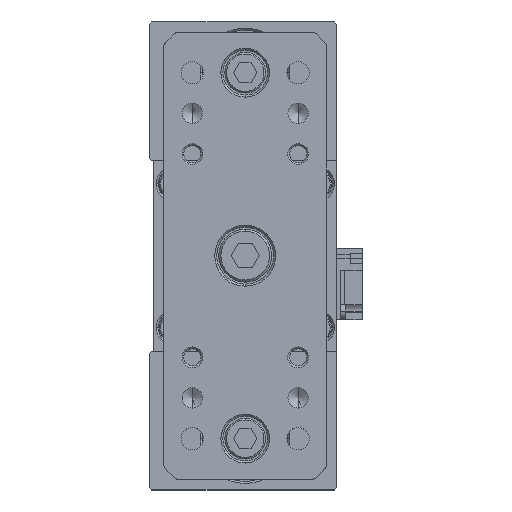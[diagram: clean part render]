
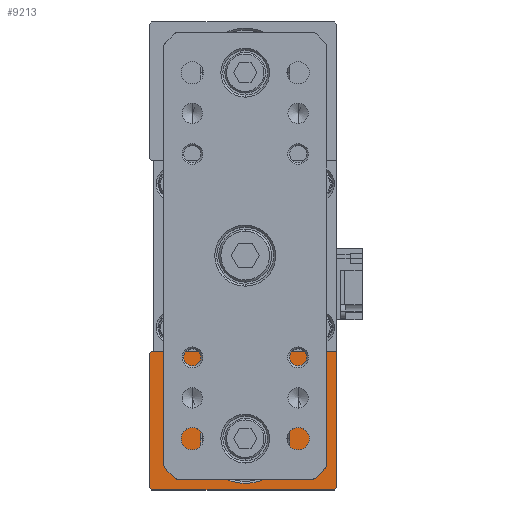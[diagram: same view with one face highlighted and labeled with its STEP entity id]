
A CAD part, top view. The second image highlights one B-rep face of the part: STEP entity #9213.
In plain terms, the highlighted planar face has unit normal (0, 0, 1).
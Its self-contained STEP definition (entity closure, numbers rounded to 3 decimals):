
#525 = CARTESIAN_POINT ( 'NONE',  ( -23.5, -24., 361. ) ) ;
#1566 = PLANE ( 'NONE',  #17268 ) ;
#2292 = DIRECTION ( 'NONE',  ( 0., 0., -1. ) ) ;
#2540 = VERTEX_POINT ( 'NONE', #13315 ) ;
#2937 = CARTESIAN_POINT ( 'NONE',  ( 22.5, -23.5, 361. ) ) ;
#3142 = EDGE_LOOP ( 'NONE', ( #23534, #22667, #7123, #4132, #21081, #16589, #28722 ) ) ;
#4132 = ORIENTED_EDGE ( 'NONE', *, *, #20104, .T. ) ;
#4609 = DIRECTION ( 'NONE',  ( -1., 0., 0. ) ) ;
#4968 = ORIENTED_EDGE ( 'NONE', *, *, #18100, .T. ) ;
#5765 = CARTESIAN_POINT ( 'NONE',  ( -23.5, -57.5, 361. ) ) ;
#6153 = EDGE_CURVE ( 'NONE', #9783, #8974, #27178, .T. ) ;
#6401 = CARTESIAN_POINT ( 'NONE',  ( 22.5, -57.5, 361. ) ) ;
#6509 = DIRECTION ( 'NONE',  ( 0., 0., -1. ) ) ;
#6655 = VERTEX_POINT ( 'NONE', #9307 ) ;
#7021 = LINE ( 'NONE', #30838, #13617 ) ;
#7123 = ORIENTED_EDGE ( 'NONE', *, *, #19431, .F. ) ;
#7127 = AXIS2_PLACEMENT_3D ( 'NONE', #17067, #2292, #19567 ) ;
#7137 = VERTEX_POINT ( 'NONE', #23794 ) ;
#7800 = LINE ( 'NONE', #5765, #13610 ) ;
#8463 = VERTEX_POINT ( 'NONE', #2937 ) ;
#8974 = VERTEX_POINT ( 'NONE', #27721 ) ;
#9213 = ADVANCED_FACE ( 'NONE', ( #24314, #25099 ), #1566, .F. ) ;
#9307 = CARTESIAN_POINT ( 'NONE',  ( -23., -57.5, 361. ) ) ;
#9569 = CARTESIAN_POINT ( 'NONE',  ( 0., -45., 361. ) ) ;
#9783 = VERTEX_POINT ( 'NONE', #17900 ) ;
#9883 = CARTESIAN_POINT ( 'NONE',  ( 22., -57.5, 361. ) ) ;
#10174 = DIRECTION ( 'NONE',  ( 0., 1., 0. ) ) ;
#11233 = CARTESIAN_POINT ( 'NONE',  ( 22.5, -57.5, 361. ) ) ;
#12042 = DIRECTION ( 'NONE',  ( -1., 0., 0. ) ) ;
#12842 = AXIS2_PLACEMENT_3D ( 'NONE', #9569, #26839, #12042 ) ;
#12915 = VERTEX_POINT ( 'NONE', #14848 ) ;
#12938 = CIRCLE ( 'NONE', #7127, 11. ) ;
#13190 = VECTOR ( 'NONE', #26046, 1000. ) ;
#13315 = CARTESIAN_POINT ( 'NONE',  ( -23.5, -24., 361. ) ) ;
#13558 = DIRECTION ( 'NONE',  ( 0.707, -0.707, 0. ) ) ;
#13566 = EDGE_CURVE ( 'NONE', #7137, #8463, #29076, .T. ) ;
#13589 = ORIENTED_EDGE ( 'NONE', *, *, #6153, .T. ) ;
#13610 = VECTOR ( 'NONE', #30502, 1000. ) ;
#13617 = VECTOR ( 'NONE', #13558, 1000. ) ;
#14030 = LINE ( 'NONE', #525, #26403 ) ;
#14848 = CARTESIAN_POINT ( 'NONE',  ( -23., -23.5, 361. ) ) ;
#16311 = VERTEX_POINT ( 'NONE', #22537 ) ;
#16589 = ORIENTED_EDGE ( 'NONE', *, *, #25180, .T. ) ;
#17067 = CARTESIAN_POINT ( 'NONE',  ( 0., -45., 361. ) ) ;
#17268 = AXIS2_PLACEMENT_3D ( 'NONE', #6401, #6509, #23818 ) ;
#17436 = EDGE_CURVE ( 'NONE', #8463, #12915, #26490, .T. ) ;
#17787 = DIRECTION ( 'NONE',  ( -0.707, -0.707, 0. ) ) ;
#17900 = CARTESIAN_POINT ( 'NONE',  ( 11., -45., 361. ) ) ;
#18100 = EDGE_CURVE ( 'NONE', #8974, #9783, #12938, .T. ) ;
#18758 = EDGE_CURVE ( 'NONE', #12915, #2540, #14030, .T. ) ;
#19151 = VECTOR ( 'NONE', #4609, 1000. ) ;
#19340 = VECTOR ( 'NONE', #19729, 1000. ) ;
#19431 = EDGE_CURVE ( 'NONE', #16311, #2540, #7800, .T. ) ;
#19567 = DIRECTION ( 'NONE',  ( -1., 0., 0. ) ) ;
#19729 = DIRECTION ( 'NONE',  ( 0.707, 0.707, 0. ) ) ;
#20104 = EDGE_CURVE ( 'NONE', #16311, #6655, #7021, .T. ) ;
#20755 = EDGE_CURVE ( 'NONE', #23364, #6655, #26326, .T. ) ;
#20958 = VECTOR ( 'NONE', #10174, 1000. ) ;
#21081 = ORIENTED_EDGE ( 'NONE', *, *, #20755, .F. ) ;
#21762 = CARTESIAN_POINT ( 'NONE',  ( 22.5, -23.5, 361. ) ) ;
#22537 = CARTESIAN_POINT ( 'NONE',  ( -23.5, -57., 361. ) ) ;
#22667 = ORIENTED_EDGE ( 'NONE', *, *, #18758, .T. ) ;
#23364 = VERTEX_POINT ( 'NONE', #31937 ) ;
#23534 = ORIENTED_EDGE ( 'NONE', *, *, #17436, .T. ) ;
#23794 = CARTESIAN_POINT ( 'NONE',  ( 22.5, -57., 361. ) ) ;
#23818 = DIRECTION ( 'NONE',  ( -1., 0., 0. ) ) ;
#24314 = FACE_BOUND ( 'NONE', #29470, .T. ) ;
#25099 = FACE_OUTER_BOUND ( 'NONE', #3142, .T. ) ;
#25180 = EDGE_CURVE ( 'NONE', #23364, #7137, #26670, .T. ) ;
#26046 = DIRECTION ( 'NONE',  ( -1., 0., 0. ) ) ;
#26326 = LINE ( 'NONE', #11233, #13190 ) ;
#26403 = VECTOR ( 'NONE', #17787, 1000. ) ;
#26490 = LINE ( 'NONE', #21762, #19151 ) ;
#26670 = LINE ( 'NONE', #9883, #19340 ) ;
#26839 = DIRECTION ( 'NONE',  ( 0., 0., -1. ) ) ;
#27178 = CIRCLE ( 'NONE', #12842, 11. ) ;
#27557 = CARTESIAN_POINT ( 'NONE',  ( 22.5, -57.5, 361. ) ) ;
#27721 = CARTESIAN_POINT ( 'NONE',  ( -11., -45., 361. ) ) ;
#28722 = ORIENTED_EDGE ( 'NONE', *, *, #13566, .T. ) ;
#29076 = LINE ( 'NONE', #27557, #20958 ) ;
#29470 = EDGE_LOOP ( 'NONE', ( #13589, #4968 ) ) ;
#30502 = DIRECTION ( 'NONE',  ( 0., 1., 0. ) ) ;
#30838 = CARTESIAN_POINT ( 'NONE',  ( -23., -57.5, 361. ) ) ;
#31937 = CARTESIAN_POINT ( 'NONE',  ( 22., -57.5, 361. ) ) ;
